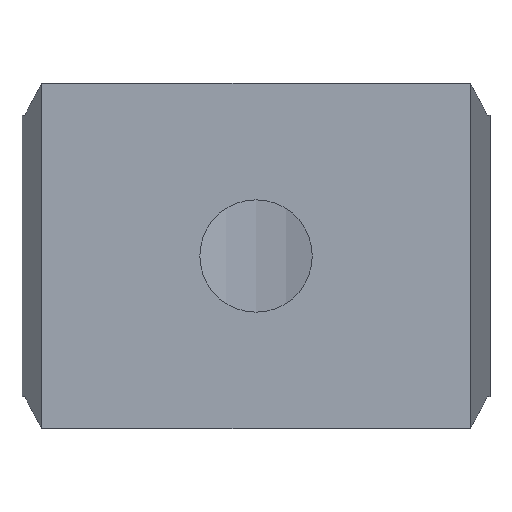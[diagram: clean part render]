
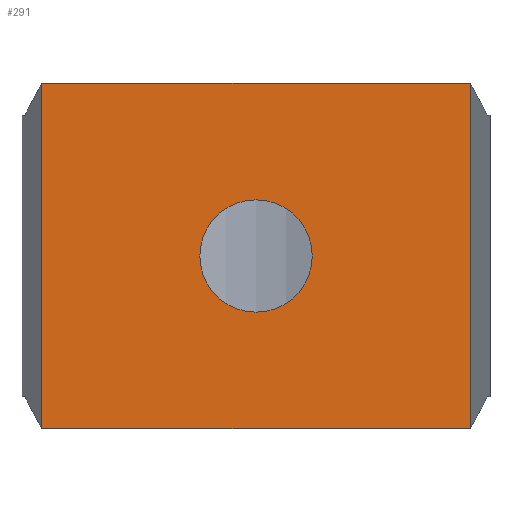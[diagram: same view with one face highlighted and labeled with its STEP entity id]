
A CAD part, front view. The second image highlights one B-rep face of the part: STEP entity #291.
In plain terms, the highlighted planar face has unit normal (0, -1, 0).
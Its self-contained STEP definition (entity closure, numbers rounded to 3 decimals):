
#11 = DIRECTION ( 'NONE',  ( -1., 0., 0. ) ) ;
#111 = EDGE_LOOP ( 'NONE', ( #1608, #1948, #1339, #1636 ) ) ;
#119 = VERTEX_POINT ( 'NONE', #2538 ) ;
#123 = VERTEX_POINT ( 'NONE', #352 ) ;
#223 = DIRECTION ( 'NONE',  ( 0., 0., -1. ) ) ;
#231 = ORIENTED_EDGE ( 'NONE', *, *, #3070, .T. ) ;
#288 = VERTEX_POINT ( 'NONE', #2035 ) ;
#291 = ADVANCED_FACE ( 'NONE', ( #1497, #3880 ), #881, .T. ) ;
#352 = CARTESIAN_POINT ( 'NONE',  ( -12.4, 0., 10. ) ) ;
#620 = CARTESIAN_POINT ( 'NONE',  ( 0., 0., -10. ) ) ;
#687 = EDGE_CURVE ( 'NONE', #123, #288, #3564, .T. ) ;
#689 = DIRECTION ( 'NONE',  ( 0., 0., 1. ) ) ;
#754 = DIRECTION ( 'NONE',  ( 0., 1., 0. ) ) ;
#808 = CARTESIAN_POINT ( 'NONE',  ( 12.4, 0., -10. ) ) ;
#881 = PLANE ( 'NONE',  #1420 ) ;
#1073 = EDGE_LOOP ( 'NONE', ( #231, #2027 ) ) ;
#1087 = VECTOR ( 'NONE', #223, 1000. ) ;
#1132 = DIRECTION ( 'NONE',  ( 1., 0., 0. ) ) ;
#1174 = LINE ( 'NONE', #2399, #2002 ) ;
#1339 = ORIENTED_EDGE ( 'NONE', *, *, #1828, .T. ) ;
#1373 = VERTEX_POINT ( 'NONE', #808 ) ;
#1420 = AXIS2_PLACEMENT_3D ( 'NONE', #2712, #3248, #1132 ) ;
#1497 = FACE_BOUND ( 'NONE', #1073, .T. ) ;
#1594 = CARTESIAN_POINT ( 'NONE',  ( 0., 0., 0. ) ) ;
#1608 = ORIENTED_EDGE ( 'NONE', *, *, #3926, .F. ) ;
#1636 = ORIENTED_EDGE ( 'NONE', *, *, #687, .T. ) ;
#1814 = VECTOR ( 'NONE', #11, 1000. ) ;
#1828 = EDGE_CURVE ( 'NONE', #2095, #123, #3685, .T. ) ;
#1946 = DIRECTION ( 'NONE',  ( -1., 0., 0. ) ) ;
#1948 = ORIENTED_EDGE ( 'NONE', *, *, #3530, .F. ) ;
#2002 = VECTOR ( 'NONE', #3609, 1000. ) ;
#2027 = ORIENTED_EDGE ( 'NONE', *, *, #2217, .T. ) ;
#2035 = CARTESIAN_POINT ( 'NONE',  ( -12.4, 0., -10. ) ) ;
#2059 = CIRCLE ( 'NONE', #3081, 3.25 ) ;
#2095 = VERTEX_POINT ( 'NONE', #3356 ) ;
#2123 = CIRCLE ( 'NONE', #3585, 3.25 ) ;
#2138 = DIRECTION ( 'NONE',  ( 0., 1., 0. ) ) ;
#2217 = EDGE_CURVE ( 'NONE', #119, #3840, #2123, .T. ) ;
#2375 = VECTOR ( 'NONE', #1946, 1000. ) ;
#2399 = CARTESIAN_POINT ( 'NONE',  ( 12.4, 0., 10. ) ) ;
#2538 = CARTESIAN_POINT ( 'NONE',  ( 0., 0., -3.25 ) ) ;
#2712 = CARTESIAN_POINT ( 'NONE',  ( 0., 0., 10. ) ) ;
#2732 = CARTESIAN_POINT ( 'NONE',  ( 0., 0., 0. ) ) ;
#2767 = LINE ( 'NONE', #620, #1814 ) ;
#3070 = EDGE_CURVE ( 'NONE', #3840, #119, #2059, .T. ) ;
#3081 = AXIS2_PLACEMENT_3D ( 'NONE', #1594, #754, #3180 ) ;
#3180 = DIRECTION ( 'NONE',  ( 0., 0., 1. ) ) ;
#3248 = DIRECTION ( 'NONE',  ( 0., -1., 0. ) ) ;
#3356 = CARTESIAN_POINT ( 'NONE',  ( 12.4, 0., 10. ) ) ;
#3405 = CARTESIAN_POINT ( 'NONE',  ( 0., 0., 10. ) ) ;
#3530 = EDGE_CURVE ( 'NONE', #2095, #1373, #1174, .T. ) ;
#3546 = CARTESIAN_POINT ( 'NONE',  ( -12.4, 0., 10. ) ) ;
#3564 = LINE ( 'NONE', #3546, #1087 ) ;
#3585 = AXIS2_PLACEMENT_3D ( 'NONE', #2732, #2138, #689 ) ;
#3609 = DIRECTION ( 'NONE',  ( 0., 0., -1. ) ) ;
#3685 = LINE ( 'NONE', #3405, #2375 ) ;
#3827 = CARTESIAN_POINT ( 'NONE',  ( 0., 0., 3.25 ) ) ;
#3840 = VERTEX_POINT ( 'NONE', #3827 ) ;
#3880 = FACE_OUTER_BOUND ( 'NONE', #111, .T. ) ;
#3926 = EDGE_CURVE ( 'NONE', #1373, #288, #2767, .T. ) ;
